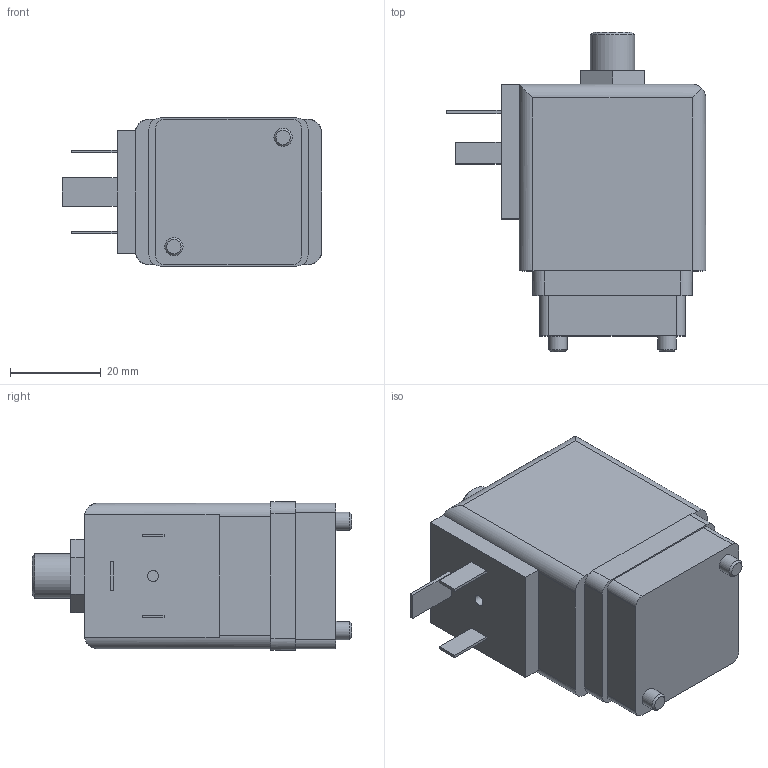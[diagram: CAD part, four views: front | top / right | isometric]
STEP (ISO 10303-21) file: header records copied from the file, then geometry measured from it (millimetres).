
FILE_DESCRIPTION(/* description */ ('STEP AP214'),/* implementation_level */ '2;1');
FILE_NAME(/* name */ '6014-126162-3_2-way_Solenoid_Valve_direct-acting',/* time_stamp */ '2024-08-05T21:18:16+02:00',/* author */ ('License CC BY-ND 4.0'),/* organization */ ('CADENAS'),/* preprocessor_version */ 'ST-DEVELOPER v19.3',/* originating_system */ 'PARTsolutions',/* authorisation */ ' ');
FILE_SCHEMA (('AUTOMOTIVE_DESIGN {1 0 10303 214 3 1 1}'));
Length unit declared in the file: millimetre
Products named in the file (1): 6014-126162-3/2-way Solenoid Valve direct-acting
Bounding box: 57.05 x 70.3 x 32.6 mm (x, y, z)
Volume: 73000.9 mm3; surface area: 11514 mm2
Topology: 1 solids, 1 shells, 73 faces, 178 edges, 116 vertices
Faces by surface type: plane 51, cylinder 19, cone 3
Full cylindrical faces by diameter (mm): 2.46 x1, 4 x2, 9.728 x1
Entity records: 2606 total; most frequent: DIRECTION 359, CARTESIAN_POINT 355, ORIENTED_EDGE 336, EDGE_CURVE 168, LINE 125, VECTOR 125, AXIS2_PLACEMENT_3D 117, VERTEX_POINT 113
